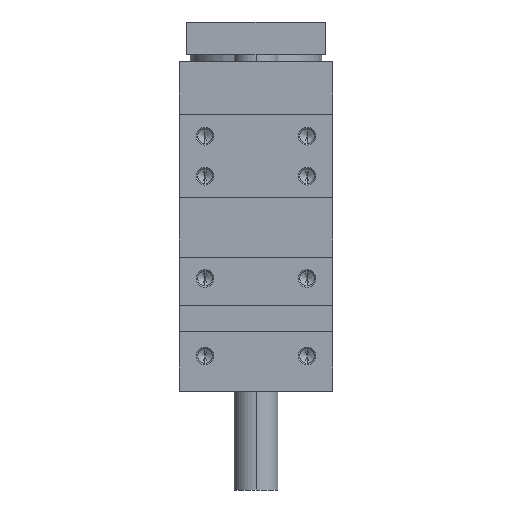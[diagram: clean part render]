
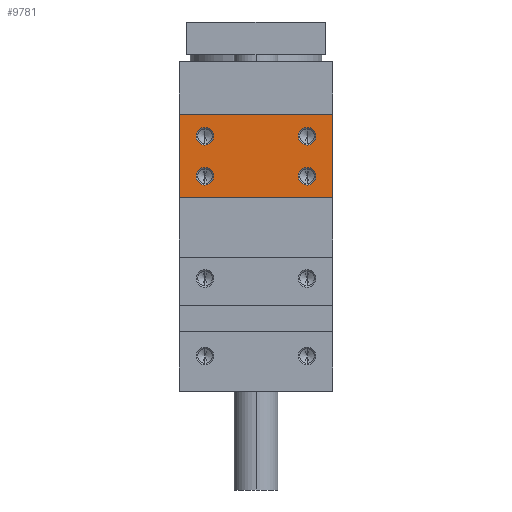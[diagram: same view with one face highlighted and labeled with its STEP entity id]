
A CAD part, left-side view. The second image highlights one B-rep face of the part: STEP entity #9781.
In plain terms, the highlighted planar face has unit normal (-1, 0, 0).
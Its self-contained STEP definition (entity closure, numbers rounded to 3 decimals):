
#130 = VECTOR ( 'NONE', #7298, 1000. ) ;
#222 = EDGE_CURVE ( 'NONE', #6938, #1530, #3953, .T. ) ;
#266 = ORIENTED_EDGE ( 'NONE', *, *, #6185, .T. ) ;
#278 = CARTESIAN_POINT ( 'NONE',  ( -68.5, 23.25, 18.8 ) ) ;
#357 = DIRECTION ( 'NONE',  ( 0., 0., -1. ) ) ;
#383 = ORIENTED_EDGE ( 'NONE', *, *, #8538, .T. ) ;
#440 = DIRECTION ( 'NONE',  ( 1., 0., 0. ) ) ;
#473 = DIRECTION ( 'NONE',  ( 0., -1., 0. ) ) ;
#482 = EDGE_CURVE ( 'NONE', #6976, #7597, #772, .T. ) ;
#523 = CARTESIAN_POINT ( 'NONE',  ( -68.5, -23.25, 14.8 ) ) ;
#535 = CARTESIAN_POINT ( 'NONE',  ( -68.5, 35., -79. ) ) ;
#576 = DIRECTION ( 'NONE',  ( 0., 0., -1. ) ) ;
#639 = FACE_BOUND ( 'NONE', #1457, .T. ) ;
#698 = FACE_BOUND ( 'NONE', #7267, .T. ) ;
#772 = CIRCLE ( 'NONE', #4792, 4. ) ;
#1206 = DIRECTION ( 'NONE',  ( 0., 0., -1. ) ) ;
#1243 = DIRECTION ( 'NONE',  ( 1., 0., 0. ) ) ;
#1345 = VECTOR ( 'NONE', #1508, 1000. ) ;
#1457 = EDGE_LOOP ( 'NONE', ( #9769, #8636 ) ) ;
#1507 = CARTESIAN_POINT ( 'NONE',  ( -68.5, -23.25, 18.8 ) ) ;
#1508 = DIRECTION ( 'NONE',  ( 0., 0., 1. ) ) ;
#1530 = VERTEX_POINT ( 'NONE', #3505 ) ;
#1618 = ORIENTED_EDGE ( 'NONE', *, *, #3973, .F. ) ;
#1634 = EDGE_CURVE ( 'NONE', #2224, #8571, #6496, .T. ) ;
#1705 = CARTESIAN_POINT ( 'NONE',  ( -68.5, 23.25, 22.8 ) ) ;
#1724 = VERTEX_POINT ( 'NONE', #10837 ) ;
#1890 = LINE ( 'NONE', #7040, #3289 ) ;
#2058 = CIRCLE ( 'NONE', #6428, 4. ) ;
#2172 = DIRECTION ( 'NONE',  ( 1., 0., 0. ) ) ;
#2174 = CARTESIAN_POINT ( 'NONE',  ( -68.5, -23.25, 37. ) ) ;
#2224 = VERTEX_POINT ( 'NONE', #6095 ) ;
#2613 = DIRECTION ( 'NONE',  ( 0., 0., -1. ) ) ;
#2648 = CIRCLE ( 'NONE', #6851, 4. ) ;
#3054 = LINE ( 'NONE', #8085, #10181 ) ;
#3080 = DIRECTION ( 'NONE',  ( 0., 0., -1. ) ) ;
#3121 = FACE_OUTER_BOUND ( 'NONE', #6886, .T. ) ;
#3237 = EDGE_CURVE ( 'NONE', #8154, #1724, #8209, .T. ) ;
#3289 = VECTOR ( 'NONE', #4411, 1000. ) ;
#3416 = AXIS2_PLACEMENT_3D ( 'NONE', #5187, #3439, #6832 ) ;
#3439 = DIRECTION ( 'NONE',  ( 1., 0., 0. ) ) ;
#3505 = CARTESIAN_POINT ( 'NONE',  ( -68.5, -35., 47. ) ) ;
#3577 = ORIENTED_EDGE ( 'NONE', *, *, #9256, .T. ) ;
#3741 = VERTEX_POINT ( 'NONE', #523 ) ;
#3953 = LINE ( 'NONE', #4065, #130 ) ;
#3973 = EDGE_CURVE ( 'NONE', #8571, #1530, #1890, .T. ) ;
#3990 = ORIENTED_EDGE ( 'NONE', *, *, #9277, .T. ) ;
#4065 = CARTESIAN_POINT ( 'NONE',  ( -68.5, -35., -79. ) ) ;
#4068 = CARTESIAN_POINT ( 'NONE',  ( -68.5, -35., 9. ) ) ;
#4265 = VERTEX_POINT ( 'NONE', #5261 ) ;
#4291 = CARTESIAN_POINT ( 'NONE',  ( -68.5, 23.25, 37. ) ) ;
#4411 = DIRECTION ( 'NONE',  ( 0., -1., 0. ) ) ;
#4545 = DIRECTION ( 'NONE',  ( 0., 0., -1. ) ) ;
#4618 = EDGE_CURVE ( 'NONE', #1724, #8154, #4975, .T. ) ;
#4701 = PLANE ( 'NONE',  #5635 ) ;
#4792 = AXIS2_PLACEMENT_3D ( 'NONE', #278, #440, #1206 ) ;
#4796 = VERTEX_POINT ( 'NONE', #9176 ) ;
#4954 = EDGE_LOOP ( 'NONE', ( #3990, #383 ) ) ;
#4975 = CIRCLE ( 'NONE', #3416, 4. ) ;
#5084 = CIRCLE ( 'NONE', #9475, 4. ) ;
#5187 = CARTESIAN_POINT ( 'NONE',  ( -68.5, -23.25, 37. ) ) ;
#5261 = CARTESIAN_POINT ( 'NONE',  ( -68.5, 23.25, 41. ) ) ;
#5406 = CARTESIAN_POINT ( 'NONE',  ( -68.5, 23.25, 18.8 ) ) ;
#5508 = CARTESIAN_POINT ( 'NONE',  ( -68.5, 23.25, 33. ) ) ;
#5549 = CIRCLE ( 'NONE', #8534, 4. ) ;
#5620 = FACE_BOUND ( 'NONE', #4954, .T. ) ;
#5635 = AXIS2_PLACEMENT_3D ( 'NONE', #535, #2172, #7226 ) ;
#5695 = DIRECTION ( 'NONE',  ( 1., 0., 0. ) ) ;
#6095 = CARTESIAN_POINT ( 'NONE',  ( -68.5, 35., 9. ) ) ;
#6185 = EDGE_CURVE ( 'NONE', #4265, #10639, #5549, .T. ) ;
#6314 = CARTESIAN_POINT ( 'NONE',  ( -68.5, 35., 47. ) ) ;
#6376 = EDGE_LOOP ( 'NONE', ( #8091, #7798 ) ) ;
#6428 = AXIS2_PLACEMENT_3D ( 'NONE', #4291, #7910, #357 ) ;
#6496 = LINE ( 'NONE', #9014, #1345 ) ;
#6604 = EDGE_CURVE ( 'NONE', #10639, #4265, #2058, .T. ) ;
#6674 = CIRCLE ( 'NONE', #10712, 4. ) ;
#6776 = CARTESIAN_POINT ( 'NONE',  ( -68.5, 23.25, 37. ) ) ;
#6832 = DIRECTION ( 'NONE',  ( 0., 0., -1. ) ) ;
#6851 = AXIS2_PLACEMENT_3D ( 'NONE', #1507, #7423, #9078 ) ;
#6886 = EDGE_LOOP ( 'NONE', ( #9412, #1618, #10032, #3577 ) ) ;
#6938 = VERTEX_POINT ( 'NONE', #4068 ) ;
#6976 = VERTEX_POINT ( 'NONE', #1705 ) ;
#7040 = CARTESIAN_POINT ( 'NONE',  ( -68.5, 70., 47. ) ) ;
#7226 = DIRECTION ( 'NONE',  ( 0., 1., 0. ) ) ;
#7267 = EDGE_LOOP ( 'NONE', ( #266, #10560 ) ) ;
#7298 = DIRECTION ( 'NONE',  ( 0., 0., 1. ) ) ;
#7335 = AXIS2_PLACEMENT_3D ( 'NONE', #2174, #7993, #4545 ) ;
#7423 = DIRECTION ( 'NONE',  ( 1., 0., 0. ) ) ;
#7597 = VERTEX_POINT ( 'NONE', #10577 ) ;
#7798 = ORIENTED_EDGE ( 'NONE', *, *, #9244, .T. ) ;
#7910 = DIRECTION ( 'NONE',  ( 1., 0., 0. ) ) ;
#7993 = DIRECTION ( 'NONE',  ( 1., 0., 0. ) ) ;
#8085 = CARTESIAN_POINT ( 'NONE',  ( -68.5, 70., 9. ) ) ;
#8091 = ORIENTED_EDGE ( 'NONE', *, *, #482, .T. ) ;
#8154 = VERTEX_POINT ( 'NONE', #9282 ) ;
#8209 = CIRCLE ( 'NONE', #7335, 4. ) ;
#8534 = AXIS2_PLACEMENT_3D ( 'NONE', #6776, #10130, #2613 ) ;
#8538 = EDGE_CURVE ( 'NONE', #3741, #4796, #5084, .T. ) ;
#8571 = VERTEX_POINT ( 'NONE', #6314 ) ;
#8636 = ORIENTED_EDGE ( 'NONE', *, *, #3237, .T. ) ;
#8865 = FACE_BOUND ( 'NONE', #6376, .T. ) ;
#9014 = CARTESIAN_POINT ( 'NONE',  ( -68.5, 35., -79. ) ) ;
#9078 = DIRECTION ( 'NONE',  ( 0., 0., -1. ) ) ;
#9176 = CARTESIAN_POINT ( 'NONE',  ( -68.5, -23.25, 22.8 ) ) ;
#9244 = EDGE_CURVE ( 'NONE', #7597, #6976, #6674, .T. ) ;
#9256 = EDGE_CURVE ( 'NONE', #2224, #6938, #3054, .T. ) ;
#9277 = EDGE_CURVE ( 'NONE', #4796, #3741, #2648, .T. ) ;
#9282 = CARTESIAN_POINT ( 'NONE',  ( -68.5, -23.25, 33. ) ) ;
#9412 = ORIENTED_EDGE ( 'NONE', *, *, #222, .T. ) ;
#9475 = AXIS2_PLACEMENT_3D ( 'NONE', #10588, #5695, #3080 ) ;
#9769 = ORIENTED_EDGE ( 'NONE', *, *, #4618, .T. ) ;
#9781 = ADVANCED_FACE ( 'NONE', ( #3121, #8865, #5620, #698, #639 ), #4701, .F. ) ;
#10032 = ORIENTED_EDGE ( 'NONE', *, *, #1634, .F. ) ;
#10130 = DIRECTION ( 'NONE',  ( 1., 0., 0. ) ) ;
#10181 = VECTOR ( 'NONE', #473, 1000. ) ;
#10560 = ORIENTED_EDGE ( 'NONE', *, *, #6604, .T. ) ;
#10577 = CARTESIAN_POINT ( 'NONE',  ( -68.5, 23.25, 14.8 ) ) ;
#10588 = CARTESIAN_POINT ( 'NONE',  ( -68.5, -23.25, 18.8 ) ) ;
#10639 = VERTEX_POINT ( 'NONE', #5508 ) ;
#10712 = AXIS2_PLACEMENT_3D ( 'NONE', #5406, #1243, #576 ) ;
#10837 = CARTESIAN_POINT ( 'NONE',  ( -68.5, -23.25, 41. ) ) ;
